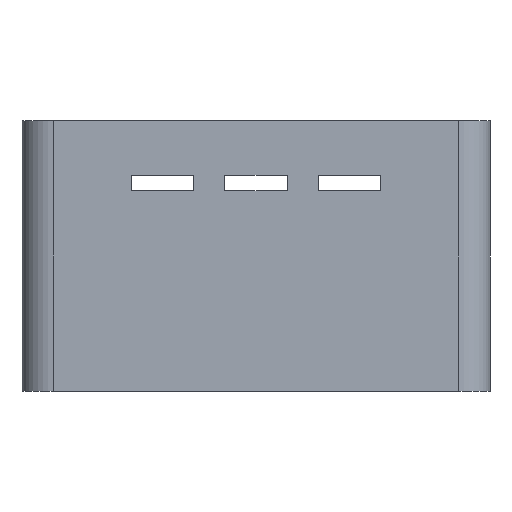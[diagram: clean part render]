
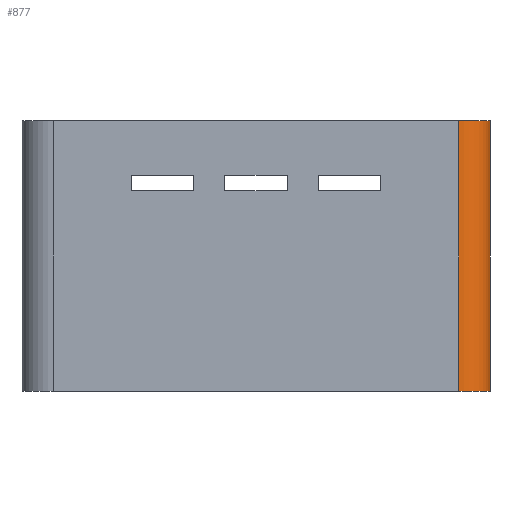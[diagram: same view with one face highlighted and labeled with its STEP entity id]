
A CAD part, left-side view. The second image highlights one B-rep face of the part: STEP entity #877.
In plain terms, the highlighted cylindrical face has radius 6 mm (diameter 12 mm), a partial arc.
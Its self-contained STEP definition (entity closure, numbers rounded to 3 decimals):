
#22 = VERTEX_POINT('',#23);
#23 = CARTESIAN_POINT('',(-70.,-39.,52.));
#32 = PLANE('',#33);
#33 = AXIS2_PLACEMENT_3D('',#34,#35,#36);
#34 = CARTESIAN_POINT('',(-70.,-45.,0.));
#35 = DIRECTION('',(1.,0.,0.));
#36 = DIRECTION('',(0.,0.,1.));
#44 = PLANE('',#45);
#45 = AXIS2_PLACEMENT_3D('',#46,#47,#48);
#46 = CARTESIAN_POINT('',(-70.,-45.,52.));
#47 = DIRECTION('',(0.,0.,1.));
#48 = DIRECTION('',(1.,0.,0.));
#56 = EDGE_CURVE('',#57,#22,#59,.T.);
#57 = VERTEX_POINT('',#58);
#58 = CARTESIAN_POINT('',(-70.,-39.,0.));
#59 = SURFACE_CURVE('',#60,(#64,#71),.PCURVE_S1.);
#60 = LINE('',#61,#62);
#61 = CARTESIAN_POINT('',(-70.,-39.,0.));
#62 = VECTOR('',#63,1.);
#63 = DIRECTION('',(0.,0.,1.));
#64 = PCURVE('',#32,#65);
#65 = DEFINITIONAL_REPRESENTATION('',(#66),#70);
#66 = LINE('',#67,#68);
#67 = CARTESIAN_POINT('',(0.,-6.));
#68 = VECTOR('',#69,1.);
#69 = DIRECTION('',(1.,0.));
#70 = ( GEOMETRIC_REPRESENTATION_CONTEXT(2) 
PARAMETRIC_REPRESENTATION_CONTEXT() REPRESENTATION_CONTEXT('2D SPACE',''
  ) );
#71 = PCURVE('',#72,#77);
#72 = CYLINDRICAL_SURFACE('',#73,6.);
#73 = AXIS2_PLACEMENT_3D('',#74,#75,#76);
#74 = CARTESIAN_POINT('',(-64.,-39.,0.));
#75 = DIRECTION('',(0.,0.,1.));
#76 = DIRECTION('',(-1.,-0.,0.));
#77 = DEFINITIONAL_REPRESENTATION('',(#78),#82);
#78 = LINE('',#79,#80);
#79 = CARTESIAN_POINT('',(0.,0.));
#80 = VECTOR('',#81,1.);
#81 = DIRECTION('',(0.,1.));
#82 = ( GEOMETRIC_REPRESENTATION_CONTEXT(2) 
PARAMETRIC_REPRESENTATION_CONTEXT() REPRESENTATION_CONTEXT('2D SPACE',''
  ) );
#100 = PLANE('',#101);
#101 = AXIS2_PLACEMENT_3D('',#102,#103,#104);
#102 = CARTESIAN_POINT('',(-70.,-45.,0.));
#103 = DIRECTION('',(0.,0.,1.));
#104 = DIRECTION('',(1.,0.,0.));
#460 = EDGE_CURVE('',#22,#461,#463,.T.);
#461 = VERTEX_POINT('',#462);
#462 = CARTESIAN_POINT('',(-64.,-45.,52.));
#463 = SURFACE_CURVE('',#464,(#469,#476),.PCURVE_S1.);
#464 = CIRCLE('',#465,6.);
#465 = AXIS2_PLACEMENT_3D('',#466,#467,#468);
#466 = CARTESIAN_POINT('',(-64.,-39.,52.));
#467 = DIRECTION('',(0.,0.,1.));
#468 = DIRECTION('',(0.,-1.,0.));
#469 = PCURVE('',#44,#470);
#470 = DEFINITIONAL_REPRESENTATION('',(#471),#475);
#471 = CIRCLE('',#472,6.);
#472 = AXIS2_PLACEMENT_2D('',#473,#474);
#473 = CARTESIAN_POINT('',(6.,6.));
#474 = DIRECTION('',(0.,-1.));
#475 = ( GEOMETRIC_REPRESENTATION_CONTEXT(2) 
PARAMETRIC_REPRESENTATION_CONTEXT() REPRESENTATION_CONTEXT('2D SPACE',''
  ) );
#476 = PCURVE('',#72,#477);
#477 = DEFINITIONAL_REPRESENTATION('',(#478),#482);
#478 = LINE('',#479,#480);
#479 = CARTESIAN_POINT('',(-4.712,52.));
#480 = VECTOR('',#481,1.);
#481 = DIRECTION('',(1.,0.));
#482 = ( GEOMETRIC_REPRESENTATION_CONTEXT(2) 
PARAMETRIC_REPRESENTATION_CONTEXT() REPRESENTATION_CONTEXT('2D SPACE',''
  ) );
#500 = PLANE('',#501);
#501 = AXIS2_PLACEMENT_3D('',#502,#503,#504);
#502 = CARTESIAN_POINT('',(-70.,-45.,0.));
#503 = DIRECTION('',(0.,1.,0.));
#504 = DIRECTION('',(0.,0.,1.));
#877 = ADVANCED_FACE('',(#878),#72,.T.);
#878 = FACE_BOUND('',#879,.T.);
#879 = EDGE_LOOP('',(#880,#904,#925,#926));
#880 = ORIENTED_EDGE('',*,*,#881,.T.);
#881 = EDGE_CURVE('',#57,#882,#884,.T.);
#882 = VERTEX_POINT('',#883);
#883 = CARTESIAN_POINT('',(-64.,-45.,0.));
#884 = SURFACE_CURVE('',#885,(#890,#897),.PCURVE_S1.);
#885 = CIRCLE('',#886,6.);
#886 = AXIS2_PLACEMENT_3D('',#887,#888,#889);
#887 = CARTESIAN_POINT('',(-64.,-39.,0.));
#888 = DIRECTION('',(0.,0.,1.));
#889 = DIRECTION('',(0.,-1.,0.));
#890 = PCURVE('',#72,#891);
#891 = DEFINITIONAL_REPRESENTATION('',(#892),#896);
#892 = LINE('',#893,#894);
#893 = CARTESIAN_POINT('',(-4.712,0.));
#894 = VECTOR('',#895,1.);
#895 = DIRECTION('',(1.,0.));
#896 = ( GEOMETRIC_REPRESENTATION_CONTEXT(2) 
PARAMETRIC_REPRESENTATION_CONTEXT() REPRESENTATION_CONTEXT('2D SPACE',''
  ) );
#897 = PCURVE('',#100,#898);
#898 = DEFINITIONAL_REPRESENTATION('',(#899),#903);
#899 = CIRCLE('',#900,6.);
#900 = AXIS2_PLACEMENT_2D('',#901,#902);
#901 = CARTESIAN_POINT('',(6.,6.));
#902 = DIRECTION('',(0.,-1.));
#903 = ( GEOMETRIC_REPRESENTATION_CONTEXT(2) 
PARAMETRIC_REPRESENTATION_CONTEXT() REPRESENTATION_CONTEXT('2D SPACE',''
  ) );
#904 = ORIENTED_EDGE('',*,*,#905,.T.);
#905 = EDGE_CURVE('',#882,#461,#906,.T.);
#906 = SURFACE_CURVE('',#907,(#911,#918),.PCURVE_S1.);
#907 = LINE('',#908,#909);
#908 = CARTESIAN_POINT('',(-64.,-45.,0.));
#909 = VECTOR('',#910,1.);
#910 = DIRECTION('',(0.,0.,1.));
#911 = PCURVE('',#72,#912);
#912 = DEFINITIONAL_REPRESENTATION('',(#913),#917);
#913 = LINE('',#914,#915);
#914 = CARTESIAN_POINT('',(1.571,0.));
#915 = VECTOR('',#916,1.);
#916 = DIRECTION('',(0.,1.));
#917 = ( GEOMETRIC_REPRESENTATION_CONTEXT(2) 
PARAMETRIC_REPRESENTATION_CONTEXT() REPRESENTATION_CONTEXT('2D SPACE',''
  ) );
#918 = PCURVE('',#500,#919);
#919 = DEFINITIONAL_REPRESENTATION('',(#920),#924);
#920 = LINE('',#921,#922);
#921 = CARTESIAN_POINT('',(0.,6.));
#922 = VECTOR('',#923,1.);
#923 = DIRECTION('',(1.,0.));
#924 = ( GEOMETRIC_REPRESENTATION_CONTEXT(2) 
PARAMETRIC_REPRESENTATION_CONTEXT() REPRESENTATION_CONTEXT('2D SPACE',''
  ) );
#925 = ORIENTED_EDGE('',*,*,#460,.F.);
#926 = ORIENTED_EDGE('',*,*,#56,.F.);
